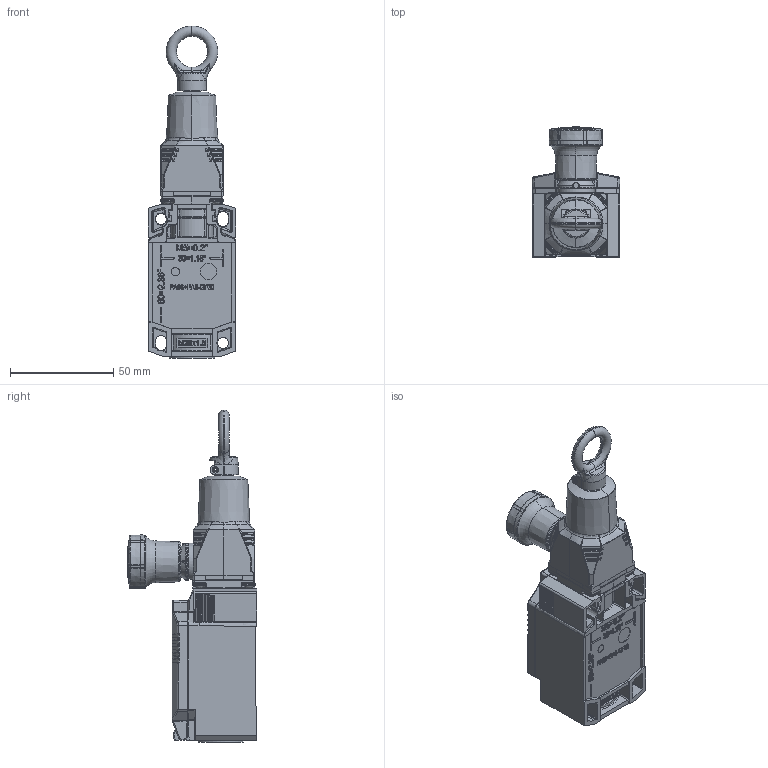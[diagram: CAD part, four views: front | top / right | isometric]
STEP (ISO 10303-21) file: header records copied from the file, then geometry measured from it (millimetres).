
FILE_DESCRIPTION((''),'2;1');
FILE_NAME('2032383','2022-02-28T11:25:19',('t.hampe'),(''),'CREO PARAMETRIC BY PTC INC, 2019292','CREO PARAMETRIC BY PTC INC, 2019292','');
FILE_SCHEMA(('AUTOMOTIVE_DESIGN { 1 0 10303 214 1 1 1 1 }'));
Products named in the file (1): 2032383
Bounding box: 42.51 x 62.83 x 160.67 mm (x, y, z)
Surface area: 36353.6 mm2 (no closed solid volume)
Topology: 0 solids, 71 shells, 2074 faces, 7613 edges, 5352 vertices
Faces by surface type: cylinder 662, plane 621, bspline 444, torus 186, sphere 90, cone 67, extrusion 4
Entity records: 149704 total; most frequent: CARTESIAN_POINT 55715, ORIENTED_EDGE 12087, PRESENTATION_STYLE_ASSIGNMENT 9663, DIRECTION 9148, STYLED_ITEM 7595, CURVE_STYLE 7524, EDGE_CURVE 7519, VERTEX_POINT 5352
